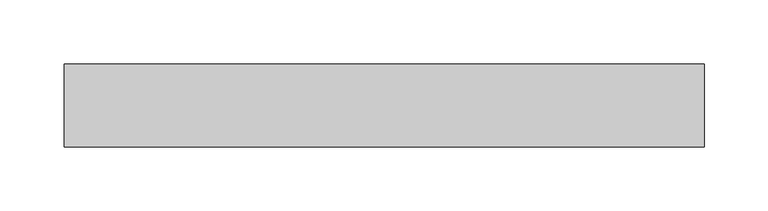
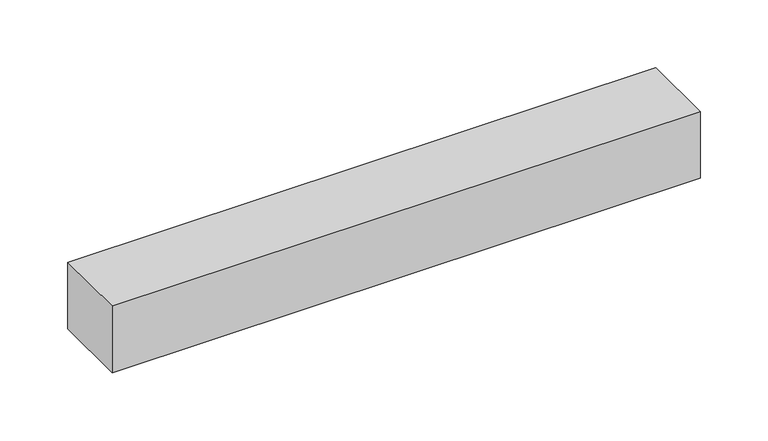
"""IFC4 building model written with IfcOpenShell, lengths in millimetres: light fixture geometry, GENILED_Светильник светодиодный_Trade Linear Advanced : Trade Linear Advanced 500x65x60 10Вт IP54 Черный 4000К."""

from ifc_helpers import new_model, si_unit, frame, origin, place, context, project, spatial, polyline, outline, extrude, source, transform, mapped, element, save


def light_fixture_260f1384(model_context):
    return source(origin(), model_context, "Body", "SweptSolid", [
        extrude(outline(polyline([(250.0, 32.5), (250.0, -32.5), (-250.0, -32.5), (-250.0, 32.5), (250.0, 32.5)])), frame((0.0, 0.0, -60.0), z_axis=(0.0, 0.0, 1.0), x_axis=(1.0, 0.0, 0.0)), (0.0, 0.0, 1.0), 60.0),
    ])


if __name__ == "__main__":
    model = new_model("IFC4")
    model_context = context("Model", 3, world=origin())
    ifc_project = project(units=[si_unit("LENGTHUNIT", "METRE", prefix="MILLI")], contexts=[model_context])
    site = spatial("IfcSite", under=ifc_project)
    building = spatial("IfcBuilding", under=site)
    placement = place(None, origin())
    light_fixture_shape = light_fixture_260f1384(model_context)
    element("IfcLightFixture", 1, ObjectType="GENILED_Светильник светодиодный_Trade Linear Advanced : Trade Linear Advanced 500x65x60 10Вт IP54 Черный 4000К", at=placement, inside=building, context=model_context, shape_type="MappedRepresentation", body=[
        mapped(light_fixture_shape, transform((0.0, 0.0, 0.0), x_axis=(1.0, 0.0, 0.0), y_axis=(0.0, 1.0, 0.0), z_axis=(0.0, 0.0, 1.0))),
    ])
    save(model, "model.ifc")
